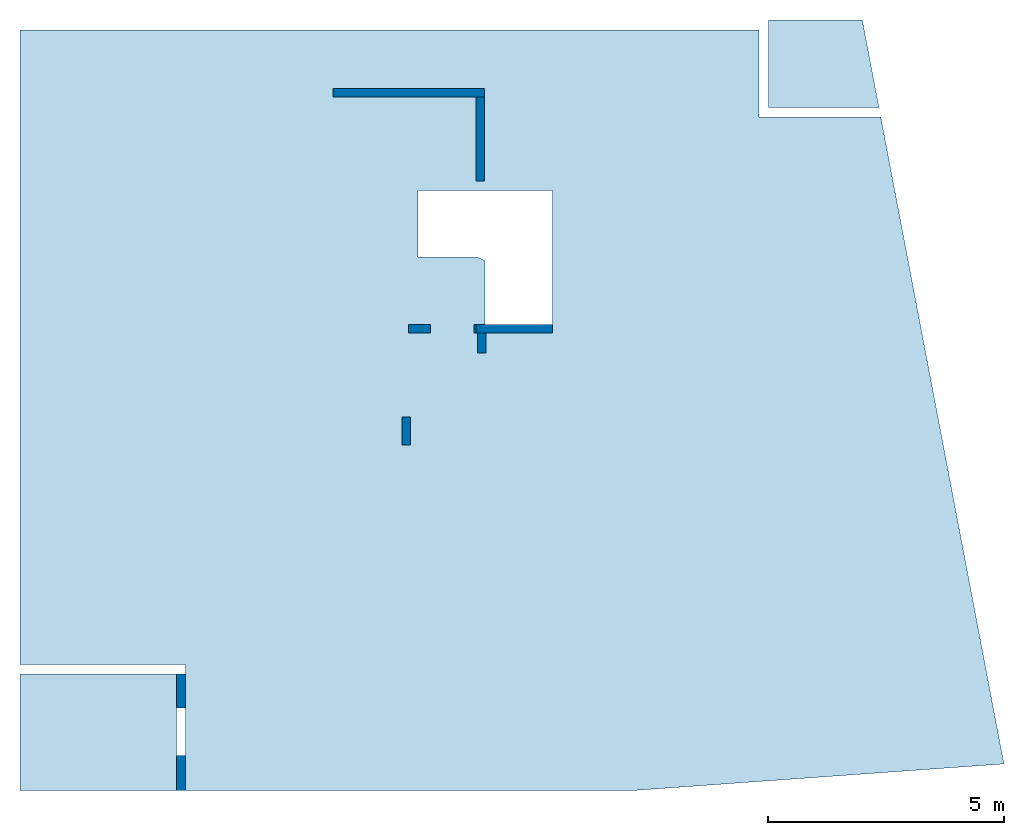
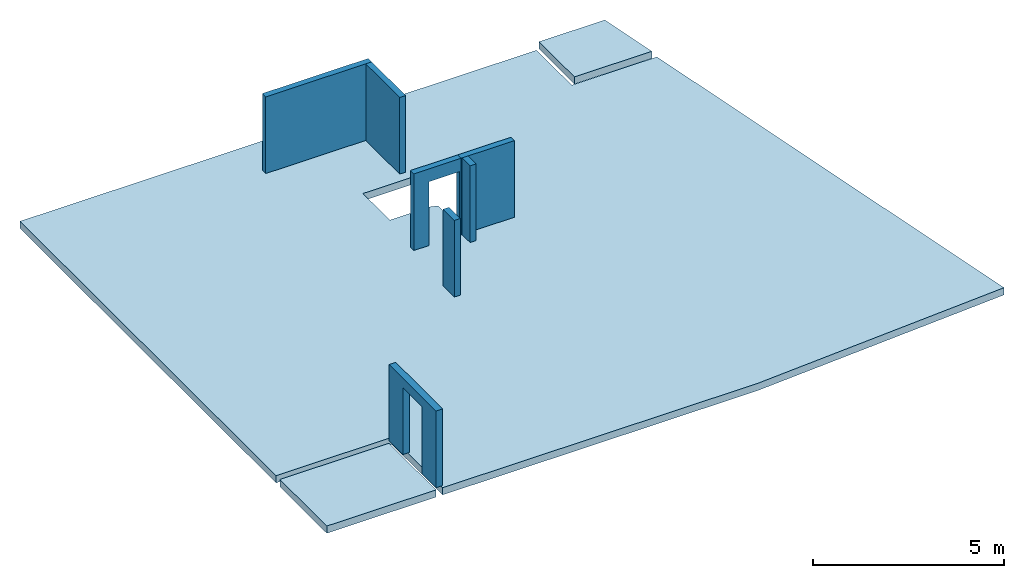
# One storey: 7 walls, 3 slabs, 3 openings.
"""IFC2X3 building model written with IfcOpenShell, lengths in centimetres."""

from ifc_helpers import new_model, entity, si_unit, converted_unit, derived_unit, direction, frame, frame_2d, origin, origin_2d_with_axis, place, context, subcontext, project, spatial, polyline, rectangle, outline, extrude, clip, bounded_halfspace, material, layer, layer_set, layer_usage, type_object, element, save


model = new_model("IFC2X3")

# Units and contexts
model_context = context("Model", 3, precision=0.001, world=origin(), true_north=direction((6.12303176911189e-17, 1.0)))
body_context = subcontext(model_context, "Body", "Model", "MODEL_VIEW")
ifc_project = project(units=[si_unit("LENGTHUNIT", "METRE", prefix="CENTI"), si_unit("AREAUNIT", "SQUARE_METRE"), si_unit("VOLUMEUNIT", "CUBIC_METRE"), converted_unit("PLANEANGLEUNIT", "DEGREE", entity("IfcRatioMeasure", 0.0174532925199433), si_unit("PLANEANGLEUNIT", "RADIAN"), dimensions=[0, 0, 0, 0, 0, 0, 0]), si_unit("MASSUNIT", "GRAM", prefix="KILO"), si_unit("TIMEUNIT", "SECOND"), si_unit("FREQUENCYUNIT", "HERTZ"), si_unit("THERMODYNAMICTEMPERATUREUNIT", "DEGREE_CELSIUS"), derived_unit("THERMALTRANSMITTANCEUNIT", [(si_unit("MASSUNIT", "GRAM", prefix="KILO"), 1), (si_unit("THERMODYNAMICTEMPERATUREUNIT", "KELVIN"), -1), (si_unit("TIMEUNIT", "SECOND"), -3)]), derived_unit("VOLUMETRICFLOWRATEUNIT", [(si_unit("LENGTHUNIT", "METRE"), 3), (si_unit("TIMEUNIT", "SECOND"), -1)]), si_unit("ELECTRICCURRENTUNIT", "AMPERE"), si_unit("ELECTRICVOLTAGEUNIT", "VOLT"), si_unit("POWERUNIT", "WATT"), si_unit("FORCEUNIT", "NEWTON"), si_unit("ILLUMINANCEUNIT", "LUX"), si_unit("LUMINOUSFLUXUNIT", "LUMEN"), si_unit("LUMINOUSINTENSITYUNIT", "CANDELA"), derived_unit("USERDEFINED", [(si_unit("MASSUNIT", "GRAM", prefix="KILO"), -1), (si_unit("LENGTHUNIT", "METRE"), -2), (si_unit("TIMEUNIT", "SECOND"), 3), (si_unit("LUMINOUSFLUXUNIT", "LUMEN"), 1)]), derived_unit("LINEARVELOCITYUNIT", [(si_unit("LENGTHUNIT", "METRE"), 1), (si_unit("TIMEUNIT", "SECOND"), -1)]), si_unit("PRESSUREUNIT", "PASCAL"), derived_unit("USERDEFINED", [(si_unit("LENGTHUNIT", "METRE"), -2), (si_unit("MASSUNIT", "GRAM", prefix="KILO"), 1), (si_unit("TIMEUNIT", "SECOND"), -2)])], contexts=[model_context])

# Site, building, storey
site_placement = place(None, origin())
site = spatial("IfcSite", under=ifc_project, at=site_placement, Name="Default", CompositionType="ELEMENT")
building_placement = place(site_placement, origin())
building = spatial("IfcBuilding", under=site, at=building_placement, CompositionType="ELEMENT")
storey_placement = place(building_placement, origin())
storey = spatial("IfcBuildingStorey", under=building, at=storey_placement, Name="Rdc", CompositionType="ELEMENT", Elevation=0.0)

# Slab, opening
ifc_material_1 = material(Name="Béton_C25/30")
ifc_layer_1 = layer(ifc_material_1, 23.0)
ifc_layer_set_1 = layer_set([ifc_layer_1], Name="Sol:DALLE_23_C25/30")
ifc_layer_usage_1 = layer_usage(ifc_layer_set_1, "AXIS3", "POSITIVE", 0.0)
slab_1_placement = place(storey_placement, frame((896.385889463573, 23227.301413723, -30.0)))
slab_1 = element("IfcSlab", 1, at=slab_1_placement, inside=storey, material=ifc_layer_usage_1, Name="Sol:DALLE_23_C25/30", ObjectType="Sol:DALLE_23_C25/30", PredefinedType="FLOOR", context=body_context, shape_type="SweptSolid", body=[
    extrude(outline(polyline([(1040.24913312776, 803.555983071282), (538.843382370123, 803.555983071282), (241.007912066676, 803.555983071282), (-522.153253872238, 803.556983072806), (-522.153253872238, 619.608202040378), (-779.839572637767, 619.608202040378), (-1040.24913312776, -747.834347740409), (-262.780735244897, -803.55698307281), (689.84359778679, -803.55698307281), (689.84359778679, -537.798596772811), (1040.24913312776, -537.798596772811), (1040.24913312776, 803.555983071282)])), frame((1040.24913312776, 803.55698307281, 23.0), z_axis=(0.0, 0.0, -1.0), x_axis=(-1.0, 0.0, 0.0)), (0.0, 0.0, 1.0), 23.0),
])
opening_1_placement = place(storey_placement, frame((896.385889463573, 23227.301413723, -30.0)))
element("IfcOpeningElement", 2, at=opening_1_placement, cuts=slab_1, ObjectType="Opening", context=body_context, shape_type="SweptSolid", body=[
    extrude(outline(polyline([(198.842878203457, 323.671047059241), (198.842878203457, 464.281261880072), (-85.1575862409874, 464.281261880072), (-85.157586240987, 181.447532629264), (56.7206716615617, 181.447532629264), (56.7206716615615, 316.063918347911), (73.0342118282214, 323.671047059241), (198.842878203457, 323.671047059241)])), frame((1040.24913312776, 803.55698307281, 23.0), z_axis=(0.0, 0.0, -1.0), x_axis=(-1.0, 0.0, 0.0)), (0.0, 0.0, 1.0), 23.0),
])

# Slabs
ifc_layer_usage_2 = layer_usage(ifc_layer_set_1, "AXIS3", "POSITIVE", 0.0)
slab_2_placement = place(storey_placement, origin())
element("IfcSlab", 3, at=slab_2_placement, inside=storey, material=ifc_layer_usage_2, Name="Sol:DALLE_23_C25/30", ObjectType="Sol:DALLE_23_C25/30", PredefinedType="FLOOR", context=body_context, shape_type="SweptSolid", body=[
    extrude(rectangle(XDim=245.758386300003, YDim=330.420535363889, at=origin_2d_with_axis()), frame((1061.5811571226, 23350.180606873, -7.0), z_axis=(0.0, 0.0, -1.0), x_axis=(0.0, 1.0, 0.0)), (0.0, 0.0, 1.0), 23.0),
])
ifc_layer_usage_3 = layer_usage(ifc_layer_set_1, "AXIS3", "POSITIVE", 0.0)
slab_3_placement = place(storey_placement, origin())
element("IfcSlab", 4, at=slab_3_placement, inside=storey, material=ifc_layer_usage_3, Name="Sol:DALLE_23_C25/30", ObjectType="Sol:DALLE_23_C25/30", PredefinedType="FLOOR", context=body_context, shape_type="SweptSolid", body=[
    extrude(outline(polyline([(-92.7629742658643, -108.106124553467), (92.7629742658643, -108.106124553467), (92.7629742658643, 90.4407642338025), (-92.7629742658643, 125.771484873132), (-92.7629742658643, -108.106124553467)])), frame((2586.89440101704, 24763.2295731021, 0.070000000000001), z_axis=(0.0, 0.0, -1.0), x_axis=(0.0, 1.0, 0.0)), (0.0, 0.0, 1.0), 23.0),
])

# Wall, opening
ifc_material_2 = material(Name="Maçonnerie - Béton")
ifc_layer_2 = layer(ifc_material_2, 20.0)
ifc_layer_set_2 = layer_set([ifc_layer_2], Name="Mur de base:BBM_20")
ifc_layer_usage_4 = layer_usage(ifc_layer_set_2, "AXIS2", "NEGATIVE", 10.0)
wall_type_1 = type_object("IfcWallType", Name="Mur de base:BBM_20", PredefinedType="STANDARD", material=ifc_layer_set_2)
wall_1_placement = place(storey_placement, frame((1236.79142480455, 23227.301413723, 0.0), z_axis=(0.0, 0.0, 1.0), x_axis=(0.0, 1.0, 0.0)))
wall_1 = element("IfcWallStandardCase", 5, at=wall_1_placement, inside=storey, type_object=wall_type_1, material=ifc_layer_usage_4, Name="Mur de base:BBM_20", ObjectType="Mur de base:BBM_20", context=body_context, shape_type="Clipping", body=[
    clip(extrude(rectangle(XDim=245.758386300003, YDim=19.9999999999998, at=frame_2d((122.879193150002, 0.0), x_axis=(-1.0, 0.0))), origin(), (0.0, 0.0, 1.0), 244.999999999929), bounded_halfspace(frame((0.0, -10.0, 245.0), z_axis=(0.0, 0.0, -1.0), x_axis=(1.0, 0.0, 0.0)), True, frame((0.0, -10.0, 245.0)), polyline([(0.0, 0.0), (245.758386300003, 0.0), (245.758386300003, 20.0), (0.0, 20.0), (0.0, 0.0)]))),
])
opening_2_placement = place(wall_1_placement, frame((-23227.301413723, 1236.79142480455, 0.0), z_axis=(0.0, 0.0, 1.0), x_axis=(0.0, -1.0, 0.0)))
element("IfcOpeningElement", 6, at=opening_2_placement, cuts=wall_1, Name="Mur de base:BBM_20", ObjectType="Opening", context=body_context, shape_type="SweptSolid", body=[
    extrude(rectangle(XDim=215.0, YDim=99.9999999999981, at=frame_2d((-1.73372427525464e-12, 0.0), x_axis=(0.0, 1.0))), frame((1399.19142480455, 23351.3044260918, 107.5), z_axis=(-1.0, 0.0, 0.0), x_axis=(0.0, 1.0, 0.0)), (0.0, 0.0, 1.0), 304.8),
])

# Walls
ifc_layer_3 = layer(ifc_material_1, 18.0)
ifc_layer_set_3 = layer_set([ifc_layer_3], Name="Mur de base:VOILE_18_C25/30")
ifc_layer_usage_5 = layer_usage(ifc_layer_set_3, "AXIS2", "NEGATIVE", 9.0)
wall_type_2 = type_object("IfcWallType", Name="Mur de base:VOILE_18_C25/30", PredefinedType="STANDARD", material=ifc_layer_set_3)
wall_2_placement = place(storey_placement, frame((1869.40238976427, 24515.1396586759, 0.0), z_axis=(0.0, 0.0, 1.0), x_axis=(0.0, 1.0, 0.0)))
element("IfcWallStandardCase", 7, at=wall_2_placement, inside=storey, type_object=wall_type_2, material=ifc_layer_usage_5, Name="Mur de base:VOILE_18_C25/30", ObjectType="Mur de base:VOILE_18_C25/30", context=body_context, shape_type="Clipping", body=[
    clip(extrude(rectangle(XDim=177.532032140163, YDim=17.9999999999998, at=frame_2d((88.7660160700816, 0.0), x_axis=(-1.0, 0.0))), origin(), (0.0, 0.0, 1.0), 244.999999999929), bounded_halfspace(frame((0.0, -9.0, 245.0), z_axis=(0.0, 0.0, -1.0), x_axis=(1.0, 0.0, 0.0)), True, frame((0.0, -9.0, 245.0)), polyline([(0.0, 0.0), (177.532032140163, 0.0), (177.532032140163, 18.0), (0.0, 18.0), (0.0, 0.0)]))),
])
ifc_layer_usage_6 = layer_usage(ifc_layer_set_3, "AXIS2", "NEGATIVE", 9.0)
wall_3_placement = place(storey_placement, frame((1878.40238976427, 24701.6716908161, 0.0), z_axis=(0.0, 0.0, 1.0), x_axis=(-1.0, 0.0, 0.0)))
element("IfcWallStandardCase", 8, at=wall_3_placement, inside=storey, type_object=wall_type_2, material=ifc_layer_usage_6, Name="Mur de base:VOILE_18_C25/30", ObjectType="Mur de base:VOILE_18_C25/30", context=body_context, shape_type="Clipping", body=[
    clip(extrude(rectangle(XDim=320.610489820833, YDim=18.0000000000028, at=frame_2d((160.305244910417, 0.0), x_axis=(-1.0, 0.0))), origin(), (0.0, 0.0, 1.0), 244.999999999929), bounded_halfspace(frame((0.0, -9.0, 245.0), z_axis=(0.0, 0.0, -1.0), x_axis=(0.0, -1.0, 0.0)), True, frame((0.0, -9.0, 245.0)), polyline([(0.0, 0.0), (320.610489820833, 0.0), (320.610489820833, 18.0), (18.0, 18.0), (0.0, 18.0), (0.0, 0.0)]))),
])
ifc_layer_usage_7 = layer_usage(ifc_layer_set_3, "AXIS2", "NEGATIVE", 9.0)
wall_4_placement = place(storey_placement, frame((1712.65715029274, 23957.3055673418, 0.0), z_axis=(0.0, 0.0, 1.0), x_axis=(0.0, 1.0, 0.0)))
element("IfcWallStandardCase", 9, at=wall_4_placement, inside=storey, type_object=wall_type_2, material=ifc_layer_usage_7, Name="Mur de base:VOILE_18_C25/30", ObjectType="Mur de base:VOILE_18_C25/30", context=body_context, shape_type="Clipping", body=[
    clip(extrude(rectangle(XDim=58.999999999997, YDim=17.9999999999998, at=frame_2d((29.4999999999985, 0.0), x_axis=(-1.0, 0.0))), origin(), (0.0, 0.0, 1.0), 244.999999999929), bounded_halfspace(frame((0.0, -9.0, 245.0), z_axis=(0.0, 0.0, -1.0), x_axis=(1.0, 0.0, 0.0)), True, frame((0.0, -9.0, 245.0)), polyline([(0.0, 0.0), (18.0, 0.0), (59.0, 0.0), (59.0, 18.0), (0.0, 18.0), (0.0, 0.0)]))),
])
ifc_layer_usage_8 = layer_usage(ifc_layer_set_3, "AXIS2", "NEGATIVE", 9.0)
wall_5_placement = place(storey_placement, frame((2021.79260883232, 24203.3059294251, 0.0), z_axis=(0.0, 0.0, 1.0), x_axis=(-1.0, 0.0, 0.0)))
element("IfcWallStandardCase", 10, at=wall_5_placement, inside=storey, type_object=wall_type_2, material=ifc_layer_usage_8, Name="Mur de base:VOILE_18_C25/30", ObjectType="Mur de base:VOILE_18_C25/30", context=body_context, shape_type="Clipping", body=[
    clip(extrude(rectangle(XDim=161.000245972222, YDim=18.0000000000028, at=frame_2d((80.5001229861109, 0.0), x_axis=(-1.0, 0.0))), origin(), (0.0, 0.0, 1.0), 244.999999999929), bounded_halfspace(frame((0.0, -9.0, 245.0), z_axis=(0.0, 0.0, -1.0), x_axis=(0.0, -1.0, 0.0)), True, frame((0.0, -9.0, 245.0)), polyline([(0.0, 0.0), (161.000245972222, 0.0), (161.000245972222, 18.0), (158.000213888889, 18.0), (140.000213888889, 18.0), (0.0, 18.0), (0.0, 0.0)]))),
])
ifc_layer_usage_9 = layer_usage(ifc_layer_set_3, "AXIS2", "POSITIVE", -9.0)
wall_6_placement = place(storey_placement, frame((1872.79239494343, 24194.3059294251, 0.0), z_axis=(0.0, 0.0, 1.0), x_axis=(0.0, -1.0, 0.0)))
element("IfcWallStandardCase", 11, at=wall_6_placement, inside=storey, type_object=wall_type_2, material=ifc_layer_usage_9, Name="Mur de base:VOILE_18_C25/30", ObjectType="Mur de base:VOILE_18_C25/30", context=body_context, shape_type="Clipping", body=[
    clip(extrude(rectangle(XDim=42.0000641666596, YDim=17.9999999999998, at=frame_2d((21.0000320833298, 0.0), x_axis=(-1.0, 0.0))), origin(), (0.0, 0.0, 1.0), 244.999999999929), bounded_halfspace(frame((0.0, -9.0, 245.0), z_axis=(0.0, 0.0, -1.0), x_axis=(-1.0, 0.0, 0.0)), True, frame((0.0, -9.0, 245.0)), polyline([(0.0, 0.0), (42.0000641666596, 0.0), (42.0000641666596, 18.0), (0.0, 18.0), (0.0, 0.0)]))),
])

# Wall, opening
ifc_layer_usage_10 = layer_usage(ifc_layer_set_3, "AXIS2", "NEGATIVE", 9.0)
wall_7_placement = place(storey_placement, frame((1717.79214438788, 24203.3059019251, 0.0)))
wall_7 = element("IfcWallStandardCase", 12, at=wall_7_placement, inside=storey, type_object=wall_type_2, material=ifc_layer_usage_10, Name="Mur de base:VOILE_18_C25/30", ObjectType="Mur de base:VOILE_18_C25/30", context=body_context, shape_type="Clipping", body=[
    clip(extrude(rectangle(XDim=143.000218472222, YDim=18.0000000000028, at=frame_2d((71.5001092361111, 0.0), x_axis=(-1.0, 0.0))), origin(), (0.0, 0.0, 1.0), 244.999999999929), bounded_halfspace(frame((0.0, -9.0, 245.0), z_axis=(0.0, 0.0, -1.0), x_axis=(0.0, 1.0, 0.0)), True, frame((0.0, -9.0, 245.0)), polyline([(0.0, 0.0), (143.000218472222, 0.0), (143.000218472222, 18.0), (20.0, 18.0), (0.0, 18.0), (0.0, 0.0)]))),
])
opening_3_placement = place(wall_7_placement, frame((-1717.79214438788, -24203.3059019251, 0.0)))
element("IfcOpeningElement", 13, at=opening_3_placement, cuts=wall_7, Name="Mur de base:VOILE_18_C25/30", ObjectType="Opening", context=body_context, shape_type="SweptSolid", body=[
    extrude(rectangle(XDim=204.0, YDim=93.0000000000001, at=origin_2d_with_axis()), frame((1810.29214438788, 24059.9059019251, 102.0), z_axis=(0.0, 1.0, 0.0), x_axis=(0.0, 0.0, -1.0)), (0.0, 0.0, 1.0), 304.8),
])

save(model, "model.ifc")
